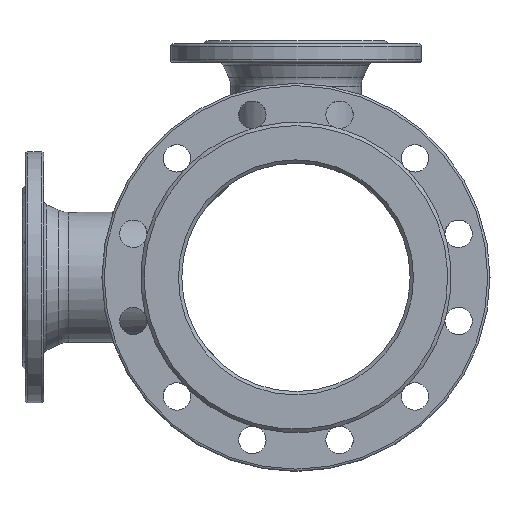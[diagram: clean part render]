
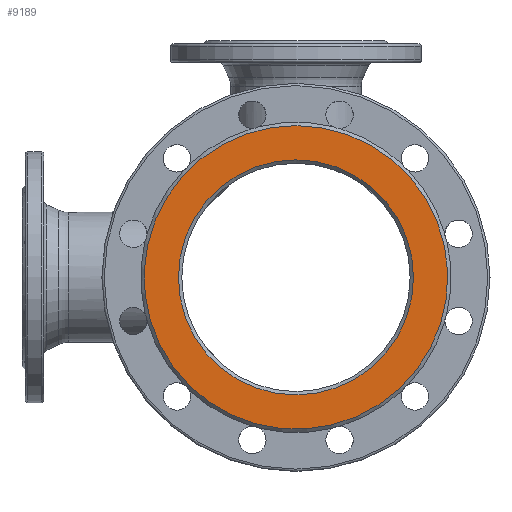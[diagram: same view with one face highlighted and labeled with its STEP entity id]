
A CAD part, left-side view. The second image highlights one B-rep face of the part: STEP entity #9189.
In plain terms, the highlighted planar face has unit normal (-1, 0, 0).
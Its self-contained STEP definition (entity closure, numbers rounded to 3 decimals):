
#480 = CARTESIAN_POINT ( 'NONE',  ( -260., 0., 133. ) ) ;
#481 = CARTESIAN_POINT ( 'NONE',  ( -260., 0., -103. ) ) ;
#924 = CARTESIAN_POINT ( 'NONE',  ( -260., 100., 0. ) ) ;
#932 = PLANE ( 'NONE',  #9470 ) ;
#934 = DIRECTION ( 'NONE',  ( 1., 0., 0. ) ) ;
#935 = DIRECTION ( 'NONE',  ( 0., 0., -1. ) ) ;
#1589 = CARTESIAN_POINT ( 'NONE',  ( -260., 0., 0. ) ) ;
#1590 = DIRECTION ( 'NONE',  ( -1., 0., 0. ) ) ;
#1591 = DIRECTION ( 'NONE',  ( 0., 0., 1. ) ) ;
#1629 = CARTESIAN_POINT ( 'NONE',  ( -260., 0., 0. ) ) ;
#1630 = DIRECTION ( 'NONE',  ( 1., 0., 0. ) ) ;
#1631 = DIRECTION ( 'NONE',  ( 0., 0., -1. ) ) ;
#6386 = CIRCLE ( 'NONE', #9585, 133. ) ;
#6393 = CIRCLE ( 'NONE', #9590, 103. ) ;
#6543 = VERTEX_POINT ( 'NONE', #480 ) ;
#6544 = VERTEX_POINT ( 'NONE', #481 ) ;
#8410 = ORIENTED_EDGE ( 'NONE', *, *, #9335, .T. ) ;
#8444 = ORIENTED_EDGE ( 'NONE', *, *, #9328, .T. ) ;
#8763 = FACE_BOUND ( 'NONE', #9056, .T. ) ;
#8765 = FACE_OUTER_BOUND ( 'NONE', #9061, .T. ) ;
#9056 = EDGE_LOOP ( 'NONE', ( #8410 ) ) ;
#9061 = EDGE_LOOP ( 'NONE', ( #8444 ) ) ;
#9189 = ADVANCED_FACE ( 'NONE', ( #8763, #8765 ), #932, .F. ) ;
#9328 = EDGE_CURVE ( 'NONE', #6543, #6543, #6386, .T. ) ;
#9335 = EDGE_CURVE ( 'NONE', #6544, #6544, #6393, .T. ) ;
#9470 = AXIS2_PLACEMENT_3D ( 'NONE', #924, #934, #935 ) ;
#9585 = AXIS2_PLACEMENT_3D ( 'NONE', #1589, #1590, #1591 ) ;
#9590 = AXIS2_PLACEMENT_3D ( 'NONE', #1629, #1630, #1631 ) ;
